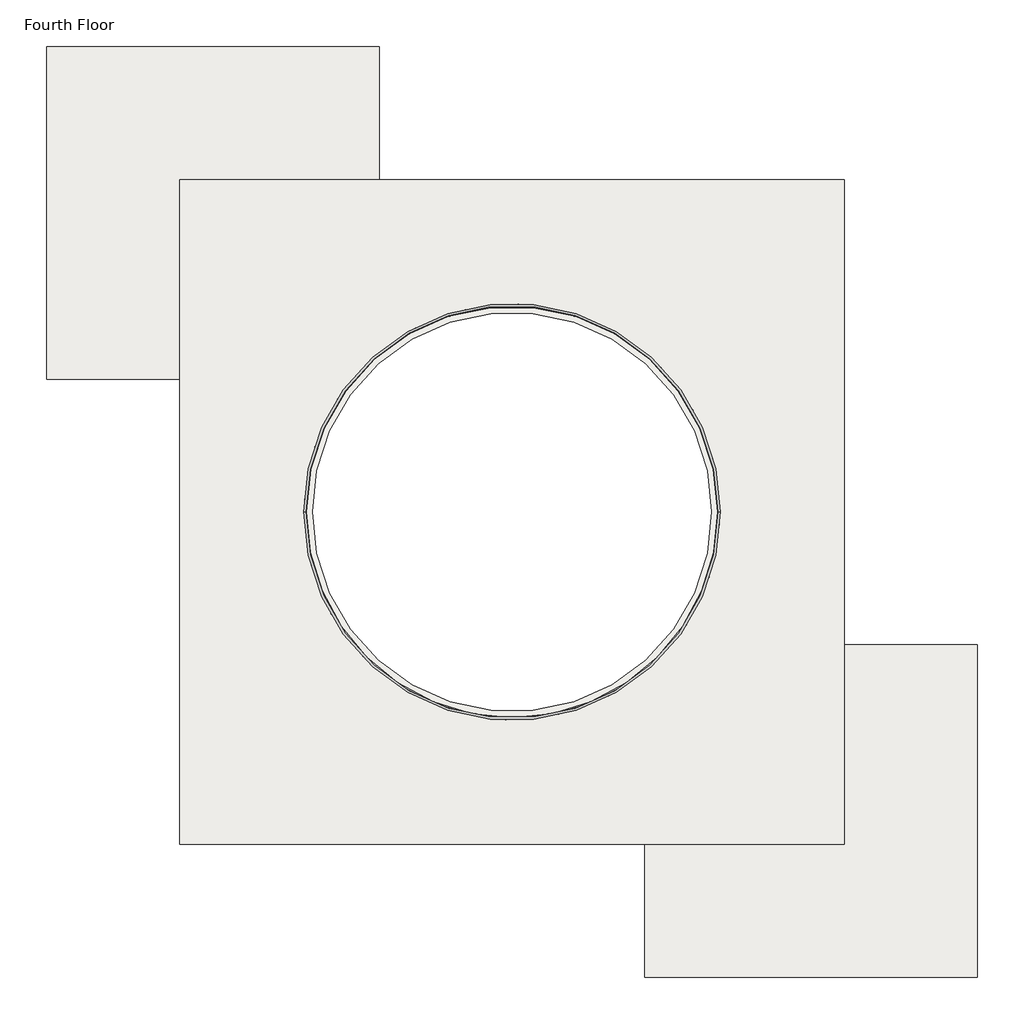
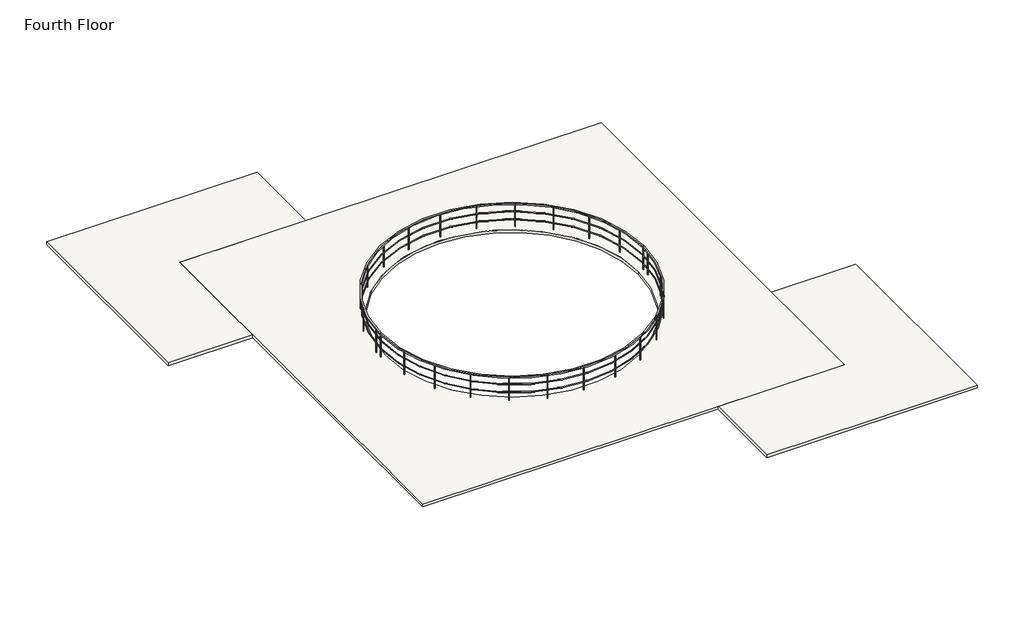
# One storey: 4 slabs, 1 railing.
"""IFC4 building model written with IfcOpenShell, lengths in millimetres."""

import ifcopenshell
import ifcopenshell.guid

model = None  # the IFC model being written
_history = None  # IfcOwnerHistory: only IFC2X3 demands one
_inside = {}  # id of a spatial element -> (the spatial element, [elements in it])
_under = {}  # id of a project, library or spatial element -> (it, [spatial elements below it])
_declared = {}  # id of a project -> (the project, [libraries it declares])
_typed = {}  # id of a type object -> (the type object, [elements of that type])
_made_of = {}  # id of a material, layer set ... -> (it, [elements and type objects made of it])


def new_model(schema):
    """Start an empty IFC model of exactly this schema.

    Asked for "IFC4X3", IfcOpenShell would pick the latest addendum, in which some entities
    have other attributes; the version numbers below select the first issue.
    IFC2X3 requires an IfcOwnerHistory on every rooted entity: one is made here for all.
    """
    global model, _history
    if schema == "IFC4X3":
        model = ifcopenshell.file(schema_version=(4, 3, 0, 0))
    else:
        model = ifcopenshell.file(schema=schema)
    _inside.clear()
    _under.clear()
    _declared.clear()
    _typed.clear()
    _made_of.clear()
    _history = None
    if model.schema == "IFC2X3":
        org = make("IfcOrganization", Name="unknown")
        user = make(
            "IfcPersonAndOrganization",
            ThePerson=make("IfcPerson", FamilyName="unknown"),
            TheOrganization=org,
        )
        app = make(
            "IfcApplication",
            ApplicationDeveloper=org,
            Version="unknown",
            ApplicationFullName="unknown",
            ApplicationIdentifier="unknown",
        )
        _history = make(
            "IfcOwnerHistory",
            OwningUser=user,
            OwningApplication=app,
            ChangeAction="ADDED",
            CreationDate=0,
        )
    return model


def make(cls, **values):
    """One entity of the class cls with the attributes given. An attribute that is None is left unset."""
    return model.create_entity(
        cls, **{name: value for name, value in values.items() if value is not None}
    )


def rooted(cls, **values):
    """An entity with a GlobalId (a new one), such as an element, a storey or a relation."""
    return make(cls, GlobalId=ifcopenshell.guid.new(), OwnerHistory=_history, **values)


def si_unit(unit_type, name, prefix=None):
    """IfcSIUnit, for example si_unit("LENGTHUNIT", "METRE", prefix="MILLI")."""
    return make("IfcSIUnit", UnitType=unit_type, Prefix=prefix, Name=name)


def assignment(units):
    """IfcUnitAssignment: the units of a project."""
    return None if units is None else make("IfcUnitAssignment", Units=units)


def point(xyz):
    """IfcCartesianPoint."""
    return None if xyz is None else make("IfcCartesianPoint", Coordinates=xyz)


def direction(xyz):
    """IfcDirection."""
    return None if xyz is None else make("IfcDirection", DirectionRatios=xyz)


def frame(location, z_axis=None, x_axis=None):
    """IfcAxis2Placement3D, a coordinate frame: its origin and axes. An axis left out is left unset."""
    return make(
        "IfcAxis2Placement3D",
        Location=point(location),
        Axis=direction(z_axis),
        RefDirection=direction(x_axis),
    )


def frame_2d(location, x_axis=None):
    """IfcAxis2Placement2D, a coordinate frame in the plane: its origin and x axis."""
    return make(
        "IfcAxis2Placement2D", Location=point(location), RefDirection=direction(x_axis)
    )


def origin():
    """The frame at (0, 0, 0) with its axes left unset."""
    return frame((0.0, 0.0, 0.0))


def place(relative_to, where):
    """IfcLocalPlacement: puts the frame where relative to a parent placement (None: the world)."""
    return make(
        "IfcLocalPlacement", PlacementRelTo=relative_to, RelativePlacement=where
    )


def context(
    kind, dimensions, precision=None, world=None, true_north=None, identifier=None
):
    """IfcGeometricRepresentationContext, for example the 3D "Model" context."""
    return make(
        "IfcGeometricRepresentationContext",
        ContextIdentifier=identifier,
        ContextType=kind,
        CoordinateSpaceDimension=dimensions,
        Precision=precision,
        WorldCoordinateSystem=world,
        TrueNorth=true_north,
    )


def project(units=None, contexts=None):
    """IfcProject with its units and contexts."""
    return rooted(
        "IfcProject",
        Name="project",
        RepresentationContexts=contexts,
        UnitsInContext=assignment(units),
    )


def spatial(cls, under=None, at=None, **own):
    """A site, building, storey or space (cls), placed at a placement, below another one or the project."""
    s = rooted(cls, ObjectPlacement=at, **own)
    if under is not None:
        _under.setdefault(under.id(), (under, []))[1].append(s)
    return s


def polyline(points):
    """IfcPolyline through the points."""
    return make("IfcPolyline", Points=[point(p) for p in points])


def circle_curve(where, radius):
    """IfcCircle in the frame where."""
    return make("IfcCircle", Position=where, Radius=radius)


def ellipse_curve(where, semi_axis1, semi_axis2):
    """IfcEllipse in the frame where."""
    return make(
        "IfcEllipse", Position=where, SemiAxis1=semi_axis1, SemiAxis2=semi_axis2
    )


def trimmed(basis, trim1, trim2, sense, master):
    """IfcTrimmedCurve: the piece of a basis curve between two trims."""
    return make(
        "IfcTrimmedCurve",
        BasisCurve=basis,
        Trim1=trim1,
        Trim2=trim2,
        SenseAgreement=sense,
        MasterRepresentation=master,
    )


def segment(curve, same_sense, transition):
    """IfcCompositeCurveSegment."""
    return make(
        "IfcCompositeCurveSegment",
        Transition=transition,
        SameSense=same_sense,
        ParentCurve=curve,
    )


def composite_curve(segments, self_intersect=None):
    """IfcCompositeCurve: segments joined end to end."""
    return make("IfcCompositeCurve", Segments=segments, SelfIntersect=self_intersect)


def outline(outer, holes=None, kind="AREA"):
    """IfcArbitraryClosedProfileDef: a profile drawn as a closed curve; with holes, ...WithVoids."""
    if holes is None:
        return make("IfcArbitraryClosedProfileDef", ProfileType=kind, OuterCurve=outer)
    return make(
        "IfcArbitraryProfileDefWithVoids",
        ProfileType=kind,
        OuterCurve=outer,
        InnerCurves=holes,
    )


def extrude(swept, where, along, depth):
    """IfcExtrudedAreaSolid: the profile swept, set in the frame where, extruded along a direction by depth."""
    return make(
        "IfcExtrudedAreaSolid",
        SweptArea=swept,
        Position=where,
        ExtrudedDirection=direction(along),
        Depth=depth,
    )


def shape(context_of_items, identifier, shape_type, items):
    """IfcShapeRepresentation: the items that make up one representation, for example the "Body"."""
    return make(
        "IfcShapeRepresentation",
        ContextOfItems=context_of_items,
        RepresentationIdentifier=identifier,
        RepresentationType=shape_type,
        Items=items,
    )


def source(mapping_origin, context_of_items, identifier, shape_type, items):
    """IfcRepresentationMap: a shape defined once, which mapped items show again and again."""
    return make(
        "IfcRepresentationMap",
        MappingOrigin=mapping_origin,
        MappedRepresentation=shape(context_of_items, identifier, shape_type, items),
    )


def transform(
    local_origin,
    x_axis=None,
    y_axis=None,
    z_axis=None,
    scale=None,
    scale2=None,
    scale3=None,
    uniform=True,
):
    """IfcCartesianTransformationOperator3D, or its non-uniform kind. x_axis, y_axis, z_axis: its Axis1, 2, 3."""
    if uniform:
        return make(
            "IfcCartesianTransformationOperator3D",
            Axis1=direction(x_axis),
            Axis2=direction(y_axis),
            LocalOrigin=point(local_origin),
            Scale=scale,
            Axis3=direction(z_axis),
        )
    return make(
        "IfcCartesianTransformationOperator3DnonUniform",
        Axis1=direction(x_axis),
        Axis2=direction(y_axis),
        LocalOrigin=point(local_origin),
        Scale=scale,
        Axis3=direction(z_axis),
        Scale2=scale2,
        Scale3=scale3,
    )


def mapped(mapping_source, mapping_target):
    """IfcMappedItem: shows the shape of a source again, moved by a transform."""
    return make(
        "IfcMappedItem", MappingSource=mapping_source, MappingTarget=mapping_target
    )


def made_of(thing, what):
    """Note that an element or type object is made of a material, layer set ...; save() writes the relation."""
    if what is not None:
        _made_of.setdefault(what.id(), (what, []))[1].append(thing)
    return thing


def element(
    cls,
    number,
    at=None,
    inside=None,
    cuts=None,
    type_object=None,
    material=None,
    context=None,
    identifier="Body",
    shape_type=None,
    held_by="IfcProductDefinitionShape",
    body=None,
    shapes=None,
    **own,
):
    """One element of the class cls, such as IfcWall. Its Tag is "e" and its number.

    at: its placement. inside: the storey or other place that contains it. cuts: it is an
    opening in that element (IfcRelVoidsElement). A single representation is given by context,
    identifier, shape_type and body (its items); several are given by shapes. held_by: the class
    of the entity that holds the representations. save() writes the other relations.
    """
    e = rooted(cls, Tag="e%d" % number, ObjectPlacement=at, **own)
    if body is not None:
        shapes = [shape(context, identifier, shape_type, body)]
    if shapes is not None:
        e.Representation = make(held_by, Representations=shapes)
    if inside is not None:
        _inside.setdefault(inside.id(), (inside, []))[1].append(e)
    if cuts is not None:
        rooted(
            "IfcRelVoidsElement", RelatingBuildingElement=cuts, RelatedOpeningElement=e
        )
    if type_object is not None:
        _typed.setdefault(type_object.id(), (type_object, []))[1].append(e)
    return made_of(e, material)


def aggregate(whole, parts):
    """IfcRelAggregates: a whole, such as a stair, and the parts it consists of."""
    return rooted("IfcRelAggregates", RelatingObject=whole, RelatedObjects=parts)


def save(model, path):
    """Write the relations noted so far, then the file.

    IfcRelAggregates (storeys below a building ...), IfcRelContainedInSpatialStructure (elements
    in a storey), IfcRelDefinesByType, IfcRelAssociatesMaterial and IfcRelDeclares: one each for
    every whole, place, type object, material and project.
    """
    for whole, parts in _under.values():
        aggregate(whole, parts)
    for where, things in _inside.values():
        rooted(
            "IfcRelContainedInSpatialStructure",
            RelatedElements=things,
            RelatingStructure=where,
        )
    for kind, things in _typed.values():
        rooted("IfcRelDefinesByType", RelatedObjects=things, RelatingType=kind)
    for what, things in _made_of.values():
        rooted("IfcRelAssociatesMaterial", RelatedObjects=things, RelatingMaterial=what)
    for by, libraries in _declared.values():
        rooted("IfcRelDeclares", RelatingContext=by, RelatedDefinitions=libraries)
    model.write(path)


def plane_surface(at):
    """IfcPlane: the flat surface through the origin of the frame at, square to its z axis."""
    return make("IfcPlane", Position=at)


def cylinder_surface(at, radius):
    """IfcCylindricalSurface: all points at the distance radius from the z axis of the frame at."""
    return make("IfcCylindricalSurface", Position=at, Radius=radius)


def revolved_surface(curve, axis_point, axis_direction):
    """IfcSurfaceOfRevolution: the curve turned about the line through axis_point along axis_direction."""
    return make(
        "IfcSurfaceOfRevolution",
        SweptCurve=make("IfcArbitraryOpenProfileDef", ProfileType="CURVE", Curve=curve),
        AxisPosition=make("IfcAxis1Placement", Location=point(axis_point), Axis=direction(axis_direction)),
    )


def advanced_brep(points, edges, surfaces, faces):
    """IfcAdvancedBrep: a solid bounded by faces that lie on surfaces and meet in shared edges.

    An edge is (start, end): straight between two places in points (the first is 0);
    or (start, end, curve); or (start, end, curve, False) where it runs against its curve.
    A face is (place in surfaces, loops), or (place, loops, False) where it looks against
    its surface's normal. A loop lists edges by number (the first is 1), with a minus sign
    where the edge is run from its end to its start. The first loop is the outer one.
    """
    corners = [point(p) for p in points]
    vertices = [make("IfcVertexPoint", VertexGeometry=c) for c in corners]
    made = []
    for start, end, *more in edges:
        made.append(
            make(
                "IfcEdgeCurve",
                EdgeStart=vertices[start],
                EdgeEnd=vertices[end],
                EdgeGeometry=more[0] if more else make("IfcPolyline", Points=[corners[start], corners[end]]),
                SameSense=more[1] if len(more) > 1 else True,
            )
        )
    hull = []
    for where, loops, *sense in faces:
        bounds = []
        for j, loop in enumerate(loops):
            ring = [make("IfcOrientedEdge", EdgeElement=made[abs(k) - 1], Orientation=k > 0) for k in loop]
            bounds.append(
                make(
                    "IfcFaceOuterBound" if j == 0 else "IfcFaceBound",
                    Bound=make("IfcEdgeLoop", EdgeList=ring),
                    Orientation=True,
                )
            )
        hull.append(make("IfcAdvancedFace", Bounds=bounds, FaceSurface=surfaces[where], SameSense=sense[0] if sense else True))
    return make("IfcAdvancedBrep", Outer=make("IfcClosedShell", CfsFaces=hull))


def handrail_rectangular_1f40de0b(model_context):
    return source(origin(), model_context, "Body", "SolidModel", [
        advanced_brep(
        [(-7195.5056157, -685.9860776, 10058.4), (2253.2943843, -685.9860776, 10058.4), (2304.0943843, -685.9860776, 10058.4), (-7246.3056157, -685.9860776, 10058.4), (-7195.5056157, -685.9860776, 10007.6), (2253.2943843, -685.9860776, 10007.6), (-7246.3056157, -685.9860776, 10007.6), (2304.0943843, -685.9860776, 10007.6)],
        [
            (0, 1, circle_curve(frame((-2471.1056157, -685.9860776, 10058.4), z_axis=(0.0, 0.0, -1.0), x_axis=(1.0, 0.0, 0.0)), 4724.4)),
            (1, 2),
            (2, 3, circle_curve(frame((-2471.1056157, -685.9860776, 10058.4), z_axis=(0.0, 0.0, 1.0), x_axis=(1.0, 0.0, 0.0)), 4775.2)),
            (3, 0),
            (4, 5, circle_curve(frame((-2471.1056157, -685.9860776, 10007.6), z_axis=(0.0, 0.0, -1.0), x_axis=(1.0, 0.0, 0.0)), 4724.4)),
            (5, 1),
            (0, 4),
            (6, 7, circle_curve(frame((-2471.1056157, -685.9860776, 10007.6), z_axis=(0.0, 0.0, -1.0), x_axis=(1.0, 0.0, 0.0)), 4775.2)),
            (7, 5),
            (4, 6),
            (2, 7),
            (6, 3),
            (1, 0, circle_curve(frame((-2471.1056157, -685.9860776, 10058.4), z_axis=(0.0, 0.0, -1.0), x_axis=(-1.0, 0.0, 0.0)), 4724.4)),
            (3, 2, circle_curve(frame((-2471.1056157, -685.9860776, 10058.4), z_axis=(0.0, 0.0, 1.0), x_axis=(-1.0, 0.0, 0.0)), 4775.2)),
            (5, 4, circle_curve(frame((-2471.1056157, -685.9860776, 10007.6), z_axis=(0.0, 0.0, -1.0), x_axis=(-1.0, 0.0, 0.0)), 4724.4)),
            (7, 6, circle_curve(frame((-2471.1056157, -685.9860776, 10007.6), z_axis=(0.0, 0.0, -1.0), x_axis=(-1.0, 0.0, 0.0)), 4775.2)),
        ],
        [
            plane_surface(frame((-2471.1056157, -685.9860776, 10058.4), z_axis=(0.0, 0.0, 1.0), x_axis=(1.0, 0.0, 0.0))),
            revolved_surface(polyline([(2253.2943843, -685.9860776, 10058.4), (2253.2943843, -685.9860776, 10007.6)]), (-2471.1056157, -685.9860776, 10058.4), (0.0, 0.0, 1.0)),
            plane_surface(frame((-2471.1056157, -685.9860776, 10007.6), z_axis=(0.0, 0.0, -1.0), x_axis=(1.0, 0.0, 0.0))),
            cylinder_surface(frame((-2471.1056157, -685.9860776, 10058.4), z_axis=(0.0, 0.0, 1.0), x_axis=(1.0, 0.0, 0.0)), 4775.2),
            plane_surface(frame((-2471.1056157, -685.9860776, 10058.4), z_axis=(0.0, 0.0, 1.0), x_axis=(-1.0, 0.0, 0.0))),
            revolved_surface(polyline([(-7195.5056157, -685.9860776, 10058.4), (-7195.5056157, -685.9860776, 10007.6)]), (-2471.1056157, -685.9860776, 10058.4), (0.0, 0.0, 1.0)),
            plane_surface(frame((-2471.1056157, -685.9860776, 10007.6), z_axis=(0.0, 0.0, -1.0), x_axis=(-1.0, 0.0, 0.0))),
            cylinder_surface(frame((-2471.1056157, -685.9860776, 10058.4), z_axis=(0.0, 0.0, 1.0), x_axis=(-1.0, 0.0, 0.0)), 4775.2),
        ],
        [
            (0, [[1, 2, 3, 4]]),
            (1, [[5, 6, -1, 7]]),
            (2, [[8, 9, -5, 10]]),
            (3, [[-3, 11, -8, 12]]),
            (4, [[13, -4, 14, -2]]),
            (5, [[15, -7, -13, -6]]),
            (6, [[16, -10, -15, -9]]),
            (7, [[-14, -12, -16, -11]]),
        ],
    ),
        advanced_brep(
        [(-7208.2056157, -685.9860776, 9436.1), (2265.9943843, -685.9860776, 9436.1), (2240.5943843, -685.9860776, 9436.1), (-7182.8056157, -685.9860776, 9436.1)],
        [
            (0, 1, circle_curve(frame((-2471.1056157, -685.9860776, 9436.1), z_axis=(0.0, 0.0, -1.0), x_axis=(1.0, 0.0, 0.0)), 4737.1)),
            (1, 2, circle_curve(frame((2253.2943843, -685.9860776, 9436.1), z_axis=(0.0, 1.0, 0.0), x_axis=(1.0, 0.0, 0.0)), 12.7)),
            (2, 3, circle_curve(frame((-2471.1056157, -685.9860776, 9436.1), z_axis=(0.0, 0.0, 1.0), x_axis=(1.0, 0.0, 0.0)), 4711.7)),
            (3, 0, circle_curve(frame((-7195.5056157, -685.9860776, 9436.1), z_axis=(0.0, 1.0, 0.0), x_axis=(-1.0, 0.0, 0.0)), 12.7)),
            (2, 1, circle_curve(frame((2253.2943843, -685.9860776, 9436.1), z_axis=(0.0, 1.0, 0.0), x_axis=(1.0, 0.0, 0.0)), 12.7)),
            (0, 3, circle_curve(frame((-7195.5056157, -685.9860776, 9436.1), z_axis=(0.0, 1.0, 0.0), x_axis=(-1.0, 0.0, 0.0)), 12.7)),
            (1, 0, circle_curve(frame((-2471.1056157, -685.9860776, 9436.1), z_axis=(0.0, 0.0, -1.0), x_axis=(-1.0, 0.0, 0.0)), 4737.1)),
            (3, 2, circle_curve(frame((-2471.1056157, -685.9860776, 9436.1), z_axis=(0.0, 0.0, 1.0), x_axis=(-1.0, 0.0, 0.0)), 4711.7)),
        ],
        [
            revolved_surface(trimmed(ellipse_curve(frame((2253.2943843, -685.9860776, 9436.1), z_axis=(0.0, -1.0, 0.0), x_axis=(1.0, 0.0, 0.0)), 12.7, 12.7), [point((2240.5943843, -685.9860776, 9436.1))], [point((2265.9943843, -685.9860776, 9436.1))], True, "CARTESIAN"), (-2471.1056157, -685.9860776, 9448.8), (0.0, 0.0, 1.0)),
            revolved_surface(trimmed(ellipse_curve(frame((2253.2943843, -685.9860776, 9436.1), z_axis=(0.0, -1.0, 0.0), x_axis=(1.0, 0.0, 0.0)), 12.7, 12.7), [point((2265.9943843, -685.9860776, 9436.1))], [point((2240.5943843, -685.9860776, 9436.1))], True, "CARTESIAN"), (-2471.1056157, -685.9860776, 9448.8), (0.0, 0.0, 1.0)),
            revolved_surface(trimmed(ellipse_curve(frame((-7195.5056157, -685.9860776, 9436.1), z_axis=(0.0, 1.0, 0.0), x_axis=(-1.0, 0.0, 0.0)), 12.7, 12.7), [point((-7182.8056157, -685.9860776, 9436.1))], [point((-7208.2056157, -685.9860776, 9436.1))], True, "CARTESIAN"), (-2471.1056157, -685.9860776, 9448.8), (0.0, 0.0, 1.0)),
            revolved_surface(trimmed(ellipse_curve(frame((-7195.5056157, -685.9860776, 9436.1), z_axis=(0.0, 1.0, 0.0), x_axis=(-1.0, 0.0, 0.0)), 12.7, 12.7), [point((-7208.2056157, -685.9860776, 9436.1))], [point((-7182.8056157, -685.9860776, 9436.1))], True, "CARTESIAN"), (-2471.1056157, -685.9860776, 9448.8), (0.0, 0.0, 1.0)),
        ],
        [
            (0, [[1, 2, 3, 4]]),
            (1, [[-3, 5, -1, 6]]),
            (2, [[7, -4, 8, -2]]),
            (3, [[-8, -6, -7, -5]]),
        ],
    ),
        advanced_brep(
        [(-7208.2056157, -685.9860776, 9740.9), (2265.9943843, -685.9860776, 9740.9), (2240.5943843, -685.9860776, 9740.9), (-7182.8056157, -685.9860776, 9740.9)],
        [
            (0, 1, circle_curve(frame((-2471.1056157, -685.9860776, 9740.9), z_axis=(0.0, 0.0, -1.0), x_axis=(1.0, 0.0, 0.0)), 4737.1)),
            (1, 2, circle_curve(frame((2253.2943843, -685.9860776, 9740.9), z_axis=(0.0, 1.0, 0.0), x_axis=(1.0, 0.0, 0.0)), 12.7)),
            (2, 3, circle_curve(frame((-2471.1056157, -685.9860776, 9740.9), z_axis=(0.0, 0.0, 1.0), x_axis=(1.0, 0.0, 0.0)), 4711.7)),
            (3, 0, circle_curve(frame((-7195.5056157, -685.9860776, 9740.9), z_axis=(0.0, 1.0, 0.0), x_axis=(-1.0, 0.0, 0.0)), 12.7)),
            (2, 1, circle_curve(frame((2253.2943843, -685.9860776, 9740.9), z_axis=(0.0, 1.0, 0.0), x_axis=(1.0, 0.0, 0.0)), 12.7)),
            (0, 3, circle_curve(frame((-7195.5056157, -685.9860776, 9740.9), z_axis=(0.0, 1.0, 0.0), x_axis=(-1.0, 0.0, 0.0)), 12.7)),
            (1, 0, circle_curve(frame((-2471.1056157, -685.9860776, 9740.9), z_axis=(0.0, 0.0, -1.0), x_axis=(-1.0, 0.0, 0.0)), 4737.1)),
            (3, 2, circle_curve(frame((-2471.1056157, -685.9860776, 9740.9), z_axis=(0.0, 0.0, 1.0), x_axis=(-1.0, 0.0, 0.0)), 4711.7)),
        ],
        [
            revolved_surface(trimmed(ellipse_curve(frame((2253.2943843, -685.9860776, 9740.9), z_axis=(0.0, -1.0, 0.0), x_axis=(1.0, 0.0, 0.0)), 12.7, 12.7), [point((2240.5943843, -685.9860776, 9740.9))], [point((2265.9943843, -685.9860776, 9740.9))], True, "CARTESIAN"), (-2471.1056157, -685.9860776, 9753.6), (0.0, 0.0, 1.0)),
            revolved_surface(trimmed(ellipse_curve(frame((2253.2943843, -685.9860776, 9740.9), z_axis=(0.0, -1.0, 0.0), x_axis=(1.0, 0.0, 0.0)), 12.7, 12.7), [point((2265.9943843, -685.9860776, 9740.9))], [point((2240.5943843, -685.9860776, 9740.9))], True, "CARTESIAN"), (-2471.1056157, -685.9860776, 9753.6), (0.0, 0.0, 1.0)),
            revolved_surface(trimmed(ellipse_curve(frame((-7195.5056157, -685.9860776, 9740.9), z_axis=(0.0, 1.0, 0.0), x_axis=(-1.0, 0.0, 0.0)), 12.7, 12.7), [point((-7182.8056157, -685.9860776, 9740.9))], [point((-7208.2056157, -685.9860776, 9740.9))], True, "CARTESIAN"), (-2471.1056157, -685.9860776, 9753.6), (0.0, 0.0, 1.0)),
            revolved_surface(trimmed(ellipse_curve(frame((-7195.5056157, -685.9860776, 9740.9), z_axis=(0.0, 1.0, 0.0), x_axis=(-1.0, 0.0, 0.0)), 12.7, 12.7), [point((-7208.2056157, -685.9860776, 9740.9))], [point((-7182.8056157, -685.9860776, 9740.9))], True, "CARTESIAN"), (-2471.1056157, -685.9860776, 9753.6), (0.0, 0.0, 1.0)),
        ],
        [
            (0, [[1, 2, 3, 4]]),
            (1, [[-3, 5, -1, 6]]),
            (2, [[7, -4, 8, -2]]),
            (3, [[-8, -6, -7, -5]]),
        ],
    ),
        extrude(outline(polyline([(2278.6729092, -987.4311737), (2259.6587819, -986.2626426), (2260.8273131, -967.2485153), (2279.8414403, -968.4170465), (2278.6729092, -987.4311737)])), frame((0.0, 0.0, 9144.0), z_axis=(0.0, 0.0, 1.0), x_axis=(1.0, 0.0, 0.0)), (0.0, 0.0, 1.0), 863.6),
        extrude(outline(polyline([(2046.526604, -2183.4052938), (2028.4320972, -2177.4478343), (2034.3895567, -2159.3533275), (2052.4840635, -2165.310787), (2046.526604, -2183.4052938)])), frame((0.0, 0.0, 9144.0), z_axis=(0.0, 0.0, 1.0), x_axis=(1.0, 0.0, 0.0)), (0.0, 0.0, 1.0), 863.6),
        extrude(outline(polyline([(1518.3580893, -3281.2595752), (1502.368863, -3270.9035556), (1512.7248826, -3254.9143293), (1528.7141089, -3265.2703488), (1518.3580893, -3281.2595752)])), frame((0.0, 0.0, 9144.0), z_axis=(0.0, 0.0, 1.0), x_axis=(1.0, 0.0, 0.0)), (0.0, 0.0, 1.0), 863.6),
        extrude(outline(polyline([(728.7761168, -4209.0560569), (715.9398804, -4194.9800655), (730.0158718, -4182.1438291), (742.8521082, -4196.2198205), (728.7761168, -4209.0560569)])), frame((0.0, 0.0, 9144.0), z_axis=(0.0, 0.0, 1.0), x_axis=(1.0, 0.0, 0.0)), (0.0, 0.0, 1.0), 863.6),
        extrude(outline(polyline([(-270.4811933, -4905.9999795), (-279.323333, -4889.1263591), (-262.4497126, -4880.2842194), (-253.6075729, -4897.1578398), (-270.4811933, -4905.9999795)])), frame((0.0, 0.0, 9144.0), z_axis=(0.0, 0.0, 1.0), x_axis=(1.0, 0.0, 0.0)), (0.0, 0.0, 1.0), 863.6),
        extrude(outline(polyline([(-1413.9365416, -5326.4234201), (-1418.2051948, -5307.857831), (-1399.6396057, -5303.5891777), (-1395.3709525, -5322.1547669), (-1413.9365416, -5326.4234201)])), frame((0.0, 0.0, 9144.0), z_axis=(0.0, 0.0, 1.0), x_axis=(1.0, 0.0, 0.0)), (0.0, 0.0, 1.0), 863.6),
        extrude(outline(polyline([(-2626.6639134, -5442.7777271), (-2626.0793725, -5423.7366974), (-2607.0383428, -5424.3212383), (-2607.6228837, -5443.362268), (-2626.6639134, -5442.7777271)])), frame((0.0, 0.0, 9144.0), z_axis=(0.0, 0.0, 1.0), x_axis=(1.0, 0.0, 0.0)), (0.0, 0.0, 1.0), 863.6),
        extrude(outline(polyline([(-3829.1981776, -5247.4386724), (-3823.7987453, -5229.1698839), (-3805.5299569, -5234.5693162), (-3810.9293891, -5252.8381047), (-3829.1981776, -5247.4386724)])), frame((0.0, 0.0, 9144.0), z_axis=(0.0, 0.0, 1.0), x_axis=(1.0, 0.0, 0.0)), (0.0, 0.0, 1.0), 863.6),
        extrude(outline(polyline([(-4942.7421165, -4753.2060359), (-4932.8815958, -4736.9065687), (-4916.5821286, -4746.7670894), (-4926.4426493, -4763.0665566), (-4942.7421165, -4753.2060359)])), frame((0.0, 0.0, 9144.0), z_axis=(0.0, 0.0, 1.0), x_axis=(1.0, 0.0, 0.0)), (0.0, 0.0, 1.0), 863.6),
        extrude(outline(polyline([(-5894.3296893, -3992.4648879), (-5880.6542003, -3979.2027802), (-5867.3920926, -3992.8782693), (-5881.0675817, -4006.1403769), (-5894.3296893, -3992.4648879)])), frame((0.0, 0.0, 9144.0), z_axis=(0.0, 0.0, 1.0), x_axis=(1.0, 0.0, 0.0)), (0.0, 0.0, 1.0), 863.6),
        extrude(outline(polyline([(-6621.6072023, -3015.063526), (-6605.0128445, -3005.7077904), (-6595.6571088, -3022.3021481), (-6612.2514666, -3031.6578838), (-6621.6072023, -3015.063526)])), frame((0.0, 0.0, 9144.0), z_axis=(0.0, 0.0, 1.0), x_axis=(1.0, 0.0, 0.0)), (0.0, 0.0, 1.0), 863.6),
        extrude(outline(polyline([(-7076.9190947, -1885.0471175), (-7058.4932296, -1880.2107974), (-7053.6569095, -1898.6366626), (-7072.0827746, -1903.4729827), (-7076.9190947, -1885.0471175)])), frame((0.0, 0.0, 9144.0), z_axis=(0.0, 0.0, 1.0), x_axis=(1.0, 0.0, 0.0)), (0.0, 0.0, 1.0), 863.6),
        extrude(outline(polyline([(-7220.8841406, -384.5409814), (-7201.8700133, -385.7095126), (-7203.0385445, -404.7236398), (-7222.0526717, -403.5551087), (-7220.8841406, -384.5409814)])), frame((0.0, 0.0, 9144.0), z_axis=(0.0, 0.0, 1.0), x_axis=(1.0, 0.0, 0.0)), (0.0, 0.0, 1.0), 863.6),
        extrude(outline(polyline([(-6988.7378354, 811.4331387), (-6970.6433286, 805.4756792), (-6976.600788, 787.3811724), (-6994.6952948, 793.3386319), (-6988.7378354, 811.4331387)])), frame((0.0, 0.0, 9144.0), z_axis=(0.0, 0.0, 1.0), x_axis=(1.0, 0.0, 0.0)), (0.0, 0.0, 1.0), 863.6),
        extrude(outline(polyline([(-6460.5693207, 1909.28742), (-6444.5800944, 1898.9314005), (-6454.936114, 1882.9421741), (-6470.9253403, 1893.2981937), (-6460.5693207, 1909.28742)])), frame((0.0, 0.0, 9144.0), z_axis=(0.0, 0.0, 1.0), x_axis=(1.0, 0.0, 0.0)), (0.0, 0.0, 1.0), 863.6),
        extrude(outline(polyline([(-5670.9873482, 2837.0839018), (-5658.1511118, 2823.0079103), (-5672.2271032, 2810.1716739), (-5685.0633396, 2824.2476654), (-5670.9873482, 2837.0839018)])), frame((0.0, 0.0, 9144.0), z_axis=(0.0, 0.0, 1.0), x_axis=(1.0, 0.0, 0.0)), (0.0, 0.0, 1.0), 863.6),
        extrude(outline(polyline([(-4671.7300381, 3534.0278244), (-4662.8878984, 3517.154204), (-4679.7615188, 3508.3120643), (-4688.6036585, 3525.1856847), (-4671.7300381, 3534.0278244)])), frame((0.0, 0.0, 9144.0), z_axis=(0.0, 0.0, 1.0), x_axis=(1.0, 0.0, 0.0)), (0.0, 0.0, 1.0), 863.6),
        extrude(outline(polyline([(-3528.2746898, 3954.451265), (-3524.0060366, 3935.8856758), (-3542.5716257, 3931.6170226), (-3546.8402789, 3950.1826117), (-3528.2746898, 3954.451265)])), frame((0.0, 0.0, 9144.0), z_axis=(0.0, 0.0, 1.0), x_axis=(1.0, 0.0, 0.0)), (0.0, 0.0, 1.0), 863.6),
        extrude(outline(polyline([(-2315.547318, 4070.805572), (-2316.1318589, 4051.7645423), (-2335.1728886, 4052.3490831), (-2334.5883477, 4071.3901128), (-2315.547318, 4070.805572)])), frame((0.0, 0.0, 9144.0), z_axis=(0.0, 0.0, 1.0), x_axis=(1.0, 0.0, 0.0)), (0.0, 0.0, 1.0), 863.6),
        extrude(outline(polyline([(-1113.0130538, 3875.4665172), (-1118.4124861, 3857.1977288), (-1136.6812745, 3862.5971611), (-1131.2818422, 3880.8659495), (-1113.0130538, 3875.4665172)])), frame((0.0, 0.0, 9144.0), z_axis=(0.0, 0.0, 1.0), x_axis=(1.0, 0.0, 0.0)), (0.0, 0.0, 1.0), 863.6),
        extrude(outline(polyline([(0.5308851, 3381.2338807), (-9.3296356, 3364.9344135), (-25.6291028, 3374.7949343), (-15.7685821, 3391.0944015), (0.5308851, 3381.2338807)])), frame((0.0, 0.0, 9144.0), z_axis=(0.0, 0.0, 1.0), x_axis=(1.0, 0.0, 0.0)), (0.0, 0.0, 1.0), 863.6),
        extrude(outline(polyline([(952.1184579, 2620.4927327), (938.4429689, 2607.2306251), (925.1808612, 2620.9061142), (938.8563503, 2634.1682218), (952.1184579, 2620.4927327)])), frame((0.0, 0.0, 9144.0), z_axis=(0.0, 0.0, 1.0), x_axis=(1.0, 0.0, 0.0)), (0.0, 0.0, 1.0), 863.6),
        extrude(outline(polyline([(1679.3959709, 1643.0913709), (1662.8016131, 1633.7356352), (1653.4458775, 1650.329993), (1670.0402352, 1659.6857287), (1679.3959709, 1643.0913709)])), frame((0.0, 0.0, 9144.0), z_axis=(0.0, 0.0, 1.0), x_axis=(1.0, 0.0, 0.0)), (0.0, 0.0, 1.0), 863.6),
        extrude(outline(polyline([(2134.7078634, 513.0749623), (2116.2819982, 508.2386422), (2111.4456781, 526.6645074), (2129.8715432, 531.5008275), (2134.7078634, 513.0749623)])), frame((0.0, 0.0, 9144.0), z_axis=(0.0, 0.0, 1.0), x_axis=(1.0, 0.0, 0.0)), (0.0, 0.0, 1.0), 863.6),
        extrude(outline(polyline([(2288.2193843, -695.5110776), (2269.1693843, -695.5110776), (2269.1693843, -676.4610776), (2288.2193843, -676.4610776), (2288.2193843, -695.5110776)])), frame((0.0, 0.0, 9144.0), z_axis=(0.0, 0.0, 1.0), x_axis=(1.0, 0.0, 0.0)), (0.0, 0.0, 1.0), 863.6),
        extrude(outline(polyline([(-7230.4306157, -676.4610776), (-7211.3806157, -676.4610776), (-7211.3806157, -695.5110776), (-7230.4306157, -695.5110776), (-7230.4306157, -676.4610776)])), frame((0.0, 0.0, 9144.0), z_axis=(0.0, 0.0, 1.0), x_axis=(1.0, 0.0, 0.0)), (0.0, 0.0, 1.0), 863.6),
    ])


model = new_model("IFC4")

# Units and contexts
model_context = context("Model", 3, world=origin())
ifc_project = project(units=[si_unit("LENGTHUNIT", "METRE", prefix="MILLI")], contexts=[model_context])

# Site, building, storey
site = spatial("IfcSite", under=ifc_project)
building = spatial("IfcBuilding", under=site)
storey = spatial("IfcBuildingStorey", under=building, Name="Fourth Floor", Elevation=9144.0)

# Railing
placement = place(None, origin())
handrail_rectangular_shape = handrail_rectangular_1f40de0b(model_context)
element("IfcRailing", 1, ObjectType="Handrail - Rectangular", at=placement, inside=storey, context=model_context, shape_type="MappedRepresentation", body=[
    mapped(handrail_rectangular_shape, transform((0.0, 0.0, 0.0), x_axis=(1.0, 0.0, 0.0), y_axis=(0.0, 1.0, 0.0), z_axis=(0.0, 0.0, 1.0))),
])

# Slabs
element("IfcSlab", 2, ObjectType="LW Concrete on Metal Deck", at=placement, inside=storey, context=model_context, shape_type="SweptSolid", body=[
    extrude(outline(polyline([(5148.8943843, 6934.0139224), (5148.8943843, -8305.9860776), (-10091.1056157, -8305.9860776), (-10091.1056157, 6934.0139224), (5148.8943843, 6934.0139224)]), holes=[composite_curve([segment(trimmed(circle_curve(frame_2d((-2471.1056157, -685.9860776)), 4572.0), [point((2100.8943843, -685.9860776))], [point((-7043.1056157, -685.9860776))], True, "CARTESIAN"), True, "CONTINUOUS"), segment(trimmed(circle_curve(frame_2d((-2471.1056157, -685.9860776)), 4572.0), [point((-7043.1056157, -685.9860776))], [point((2100.8943843, -685.9860776))], True, "CARTESIAN"), True, "CONTINUOUS")], self_intersect=False)]), frame((0.0, 0.0, 9039.225), z_axis=(0.0, 0.0, 1.0), x_axis=(1.0, 0.0, 0.0)), (0.0, 0.0, 1.0), 104.775),
])
element("IfcSlab", 3, ObjectType="LW Concrete on Metal Deck", at=placement, inside=storey, context=model_context, shape_type="SweptSolid", body=[
    extrude(outline(polyline([(8196.8943843, -3733.9860776), (8196.8943843, -11353.9860776), (576.8943843, -11353.9860776), (576.8943843, -8305.9860776), (5148.8943843, -8305.9860776), (5148.8943843, -3733.9860776), (8196.8943843, -3733.9860776)])), frame((0.0, 0.0, 9039.225), z_axis=(0.0, 0.0, 1.0), x_axis=(1.0, 0.0, 0.0)), (0.0, 0.0, 1.0), 104.775),
    extrude(outline(polyline([(-5519.1056157, 9982.0139224), (-5519.1056157, 6934.0139224), (-10091.1056157, 6934.0139224), (-10091.1056157, 2362.0139224), (-13139.1056157, 2362.0139224), (-13139.1056157, 9982.0139224), (-5519.1056157, 9982.0139224)])), frame((0.0, 0.0, 9039.225), z_axis=(0.0, 0.0, 1.0), x_axis=(1.0, 0.0, 0.0)), (0.0, 0.0, 1.0), 104.775),
])
element("IfcSlab", 4, ObjectType="LW Concrete on Metal Deck", at=placement, inside=storey, context=model_context, shape_type="SweptSolid", body=[
    extrude(outline(polyline([(5148.8943843, 6934.0139224), (5148.8943843, -8305.9860776), (-10091.1056157, -8305.9860776), (-10091.1056157, 6934.0139224), (5148.8943843, 6934.0139224)]), holes=[composite_curve([segment(trimmed(circle_curve(frame_2d((-2471.1056157, -685.9860776)), 4572.0), [point((2100.8943843, -685.9860776))], [point((-7043.1056157, -685.9860776))], True, "CARTESIAN"), True, "CONTINUOUS"), segment(trimmed(circle_curve(frame_2d((-2471.1056157, -685.9860776)), 4572.0), [point((-7043.1056157, -685.9860776))], [point((2100.8943843, -685.9860776))], True, "CARTESIAN"), True, "CONTINUOUS")], self_intersect=False)]), frame((0.0, 0.0, 9039.225), z_axis=(0.0, 0.0, 1.0), x_axis=(1.0, 0.0, 0.0)), (0.0, 0.0, 1.0), 104.775),
])
element("IfcSlab", 5, ObjectType="LW Concrete on Metal Deck", at=placement, inside=storey, context=model_context, shape_type="SweptSolid", body=[
    extrude(outline(polyline([(8196.8943843, -3733.9860776), (8196.8943843, -11353.9860776), (576.8943843, -11353.9860776), (576.8943843, -8305.9860776), (5148.8943843, -8305.9860776), (5148.8943843, -3733.9860776), (8196.8943843, -3733.9860776)])), frame((0.0, 0.0, 9039.225), z_axis=(0.0, 0.0, 1.0), x_axis=(1.0, 0.0, 0.0)), (0.0, 0.0, 1.0), 104.775),
    extrude(outline(polyline([(-5519.1056157, 9982.0139224), (-5519.1056157, 6934.0139224), (-10091.1056157, 6934.0139224), (-10091.1056157, 2362.0139224), (-13139.1056157, 2362.0139224), (-13139.1056157, 9982.0139224), (-5519.1056157, 9982.0139224)])), frame((0.0, 0.0, 9039.225), z_axis=(0.0, 0.0, 1.0), x_axis=(1.0, 0.0, 0.0)), (0.0, 0.0, 1.0), 104.775),
])

save(model, "model.ifc")
